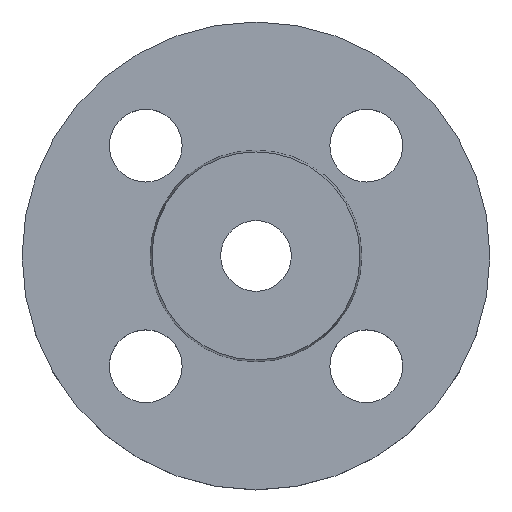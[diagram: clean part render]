
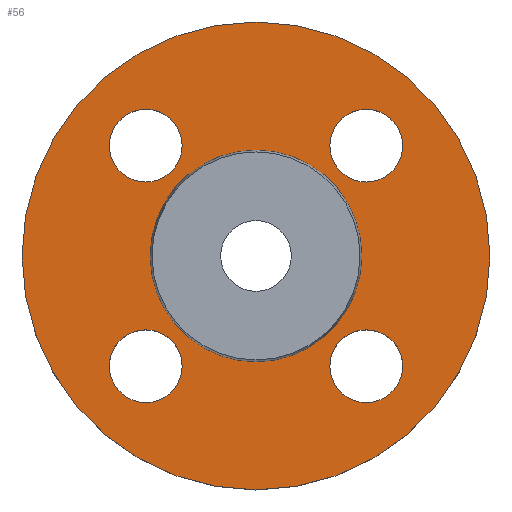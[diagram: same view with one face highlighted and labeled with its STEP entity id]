
A CAD part, top view. The second image highlights one B-rep face of the part: STEP entity #56.
In plain terms, the highlighted planar face has unit normal (0, 0, 1).
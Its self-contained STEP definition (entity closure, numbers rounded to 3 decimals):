
#5 = AXIS2_PLACEMENT_3D ( 'NONE', #185, #263, #212 ) ;
#8 = CIRCLE ( 'NONE', #5, 20.353 ) ;
#15 = EDGE_CURVE ( 'NONE', #304, #405, #148, .T. ) ;
#29 = EDGE_CURVE ( 'NONE', #600, #397, #114, .T. ) ;
#35 = CIRCLE ( 'NONE', #38, 7. ) ;
#38 = AXIS2_PLACEMENT_3D ( 'NONE', #565, #566, #567 ) ;
#43 = CIRCLE ( 'NONE', #64, 7. ) ;
#53 = AXIS2_PLACEMENT_3D ( 'NONE', #590, #591, #593 ) ;
#54 = CIRCLE ( 'NONE', #55, 7. ) ;
#55 = AXIS2_PLACEMENT_3D ( 'NONE', #594, #595, #596 ) ;
#56 = ADVANCED_FACE ( 'NONE', ( #489, #490, #491, #492, #494, #495 ), #496, .T. ) ;
#59 = CIRCLE ( 'NONE', #83, 20.353 ) ;
#60 = CIRCLE ( 'NONE', #53, 45. ) ;
#64 = AXIS2_PLACEMENT_3D ( 'NONE', #582, #584, #585 ) ;
#73 = AXIS2_PLACEMENT_3D ( 'NONE', #497, #498, #499 ) ;
#74 = AXIS2_PLACEMENT_3D ( 'NONE', #569, #570, #571 ) ;
#75 = CIRCLE ( 'NONE', #74, 7. ) ;
#83 = AXIS2_PLACEMENT_3D ( 'NONE', #625, #626, #627 ) ;
#89 = CIRCLE ( 'NONE', #90, 7. ) ;
#90 = AXIS2_PLACEMENT_3D ( 'NONE', #633, #634, #635 ) ;
#107 = AXIS2_PLACEMENT_3D ( 'NONE', #472, #473, #474 ) ;
#110 = AXIS2_PLACEMENT_3D ( 'NONE', #189, #158, #172 ) ;
#114 = CIRCLE ( 'NONE', #107, 7. ) ;
#115 = CIRCLE ( 'NONE', #110, 45. ) ;
#143 = AXIS2_PLACEMENT_3D ( 'NONE', #443, #444, #446 ) ;
#148 = CIRCLE ( 'NONE', #143, 7. ) ;
#156 = CARTESIAN_POINT ( 'NONE',  ( -45., 0., -2. ) ) ;
#157 = CARTESIAN_POINT ( 'NONE',  ( -14.213, 21.213, -2. ) ) ;
#158 = DIRECTION ( 'NONE',  ( 0., 0., -1. ) ) ;
#172 = DIRECTION ( 'NONE',  ( -1., 0., 0. ) ) ;
#179 = CARTESIAN_POINT ( 'NONE',  ( -20.353, 0., -2. ) ) ;
#182 = AXIS2_PLACEMENT_3D ( 'NONE', #316, #317, #319 ) ;
#184 = CARTESIAN_POINT ( 'NONE',  ( 28.213, -21.213, -2. ) ) ;
#185 = CARTESIAN_POINT ( 'NONE',  ( 0., 0., -2. ) ) ;
#186 = CARTESIAN_POINT ( 'NONE',  ( 45., 0., -2. ) ) ;
#189 = CARTESIAN_POINT ( 'NONE',  ( 0., 0., -2. ) ) ;
#201 = CARTESIAN_POINT ( 'NONE',  ( 14.213, -21.213, -2. ) ) ;
#210 = CARTESIAN_POINT ( 'NONE',  ( 14.213, 21.213, -2. ) ) ;
#212 = DIRECTION ( 'NONE',  ( -1., 0., 0. ) ) ;
#216 = CARTESIAN_POINT ( 'NONE',  ( 20.353, 0., -2. ) ) ;
#220 = EDGE_LOOP ( 'NONE', ( #283, #281 ) ) ;
#222 = CARTESIAN_POINT ( 'NONE',  ( -14.213, -21.213, -2. ) ) ;
#224 = CARTESIAN_POINT ( 'NONE',  ( -28.213, 21.213, -2. ) ) ;
#233 = EDGE_CURVE ( 'NONE', #405, #304, #35, .T. ) ;
#258 = EDGE_CURVE ( 'NONE', #383, #651, #75, .T. ) ;
#263 = DIRECTION ( 'NONE',  ( 0., 0., -1. ) ) ;
#275 = EDGE_CURVE ( 'NONE', #651, #383, #43, .T. ) ;
#276 = ORIENTED_EDGE ( 'NONE', *, *, #278, .F. ) ;
#278 = EDGE_CURVE ( 'NONE', #387, #640, #60, .T. ) ;
#280 = ORIENTED_EDGE ( 'NONE', *, *, #668, .F. ) ;
#281 = ORIENTED_EDGE ( 'NONE', *, *, #305, .T. ) ;
#282 = EDGE_CURVE ( 'NONE', #409, #393, #54, .T. ) ;
#283 = ORIENTED_EDGE ( 'NONE', *, *, #521, .T. ) ;
#284 = ORIENTED_EDGE ( 'NONE', *, *, #275, .T. ) ;
#287 = ORIENTED_EDGE ( 'NONE', *, *, #258, .T. ) ;
#289 = ORIENTED_EDGE ( 'NONE', *, *, #282, .T. ) ;
#291 = ORIENTED_EDGE ( 'NONE', *, *, #440, .T. ) ;
#293 = ORIENTED_EDGE ( 'NONE', *, *, #15, .T. ) ;
#296 = EDGE_LOOP ( 'NONE', ( #287, #284 ) ) ;
#299 = ORIENTED_EDGE ( 'NONE', *, *, #233, .T. ) ;
#303 = ORIENTED_EDGE ( 'NONE', *, *, #29, .T. ) ;
#304 = VERTEX_POINT ( 'NONE', #624 ) ;
#305 = EDGE_CURVE ( 'NONE', #404, #642, #59, .T. ) ;
#311 = ORIENTED_EDGE ( 'NONE', *, *, #313, .T. ) ;
#313 = EDGE_CURVE ( 'NONE', #397, #600, #89, .T. ) ;
#316 = CARTESIAN_POINT ( 'NONE',  ( -21.213, 21.213, -2. ) ) ;
#317 = DIRECTION ( 'NONE',  ( 0., 0., -1. ) ) ;
#319 = DIRECTION ( 'NONE',  ( 1., 0., 0. ) ) ;
#382 = EDGE_LOOP ( 'NONE', ( #280, #276 ) ) ;
#383 = VERTEX_POINT ( 'NONE', #644 ) ;
#387 = VERTEX_POINT ( 'NONE', #156 ) ;
#390 = CIRCLE ( 'NONE', #182, 7. ) ;
#392 = EDGE_LOOP ( 'NONE', ( #291, #289 ) ) ;
#393 = VERTEX_POINT ( 'NONE', #157 ) ;
#397 = VERTEX_POINT ( 'NONE', #184 ) ;
#401 = EDGE_LOOP ( 'NONE', ( #311, #303 ) ) ;
#404 = VERTEX_POINT ( 'NONE', #216 ) ;
#405 = VERTEX_POINT ( 'NONE', #222 ) ;
#409 = VERTEX_POINT ( 'NONE', #224 ) ;
#440 = EDGE_CURVE ( 'NONE', #393, #409, #390, .T. ) ;
#443 = CARTESIAN_POINT ( 'NONE',  ( -21.213, -21.213, -2. ) ) ;
#444 = DIRECTION ( 'NONE',  ( 0., 0., -1. ) ) ;
#446 = DIRECTION ( 'NONE',  ( 1., 0., 0. ) ) ;
#472 = CARTESIAN_POINT ( 'NONE',  ( 21.213, -21.213, -2. ) ) ;
#473 = DIRECTION ( 'NONE',  ( 0., 0., -1. ) ) ;
#474 = DIRECTION ( 'NONE',  ( 1., 0., 0. ) ) ;
#489 = FACE_BOUND ( 'NONE', #401, .T. ) ;
#490 = FACE_BOUND ( 'NONE', #641, .T. ) ;
#491 = FACE_BOUND ( 'NONE', #392, .T. ) ;
#492 = FACE_BOUND ( 'NONE', #296, .T. ) ;
#494 = FACE_BOUND ( 'NONE', #220, .T. ) ;
#495 = FACE_OUTER_BOUND ( 'NONE', #382, .T. ) ;
#496 = PLANE ( 'NONE',  #73 ) ;
#497 = CARTESIAN_POINT ( 'NONE',  ( 20.353, 0., -2. ) ) ;
#498 = DIRECTION ( 'NONE',  ( 0., 0., 1. ) ) ;
#499 = DIRECTION ( 'NONE',  ( 1., 0., 0. ) ) ;
#521 = EDGE_CURVE ( 'NONE', #642, #404, #8, .T. ) ;
#565 = CARTESIAN_POINT ( 'NONE',  ( -21.213, -21.213, -2. ) ) ;
#566 = DIRECTION ( 'NONE',  ( 0., 0., -1. ) ) ;
#567 = DIRECTION ( 'NONE',  ( 1., 0., 0. ) ) ;
#569 = CARTESIAN_POINT ( 'NONE',  ( 21.213, 21.213, -2. ) ) ;
#570 = DIRECTION ( 'NONE',  ( 0., 0., -1. ) ) ;
#571 = DIRECTION ( 'NONE',  ( 1., 0., 0. ) ) ;
#582 = CARTESIAN_POINT ( 'NONE',  ( 21.213, 21.213, -2. ) ) ;
#584 = DIRECTION ( 'NONE',  ( 0., 0., -1. ) ) ;
#585 = DIRECTION ( 'NONE',  ( 1., 0., 0. ) ) ;
#590 = CARTESIAN_POINT ( 'NONE',  ( 0., 0., -2. ) ) ;
#591 = DIRECTION ( 'NONE',  ( 0., 0., -1. ) ) ;
#593 = DIRECTION ( 'NONE',  ( -1., 0., 0. ) ) ;
#594 = CARTESIAN_POINT ( 'NONE',  ( -21.213, 21.213, -2. ) ) ;
#595 = DIRECTION ( 'NONE',  ( 0., 0., -1. ) ) ;
#596 = DIRECTION ( 'NONE',  ( 1., 0., 0. ) ) ;
#600 = VERTEX_POINT ( 'NONE', #201 ) ;
#624 = CARTESIAN_POINT ( 'NONE',  ( -28.213, -21.213, -2. ) ) ;
#625 = CARTESIAN_POINT ( 'NONE',  ( 0., 0., -2. ) ) ;
#626 = DIRECTION ( 'NONE',  ( 0., 0., -1. ) ) ;
#627 = DIRECTION ( 'NONE',  ( -1., 0., 0. ) ) ;
#633 = CARTESIAN_POINT ( 'NONE',  ( 21.213, -21.213, -2. ) ) ;
#634 = DIRECTION ( 'NONE',  ( 0., 0., -1. ) ) ;
#635 = DIRECTION ( 'NONE',  ( 1., 0., 0. ) ) ;
#640 = VERTEX_POINT ( 'NONE', #186 ) ;
#641 = EDGE_LOOP ( 'NONE', ( #299, #293 ) ) ;
#642 = VERTEX_POINT ( 'NONE', #179 ) ;
#644 = CARTESIAN_POINT ( 'NONE',  ( 28.213, 21.213, -2. ) ) ;
#651 = VERTEX_POINT ( 'NONE', #210 ) ;
#668 = EDGE_CURVE ( 'NONE', #640, #387, #115, .T. ) ;
